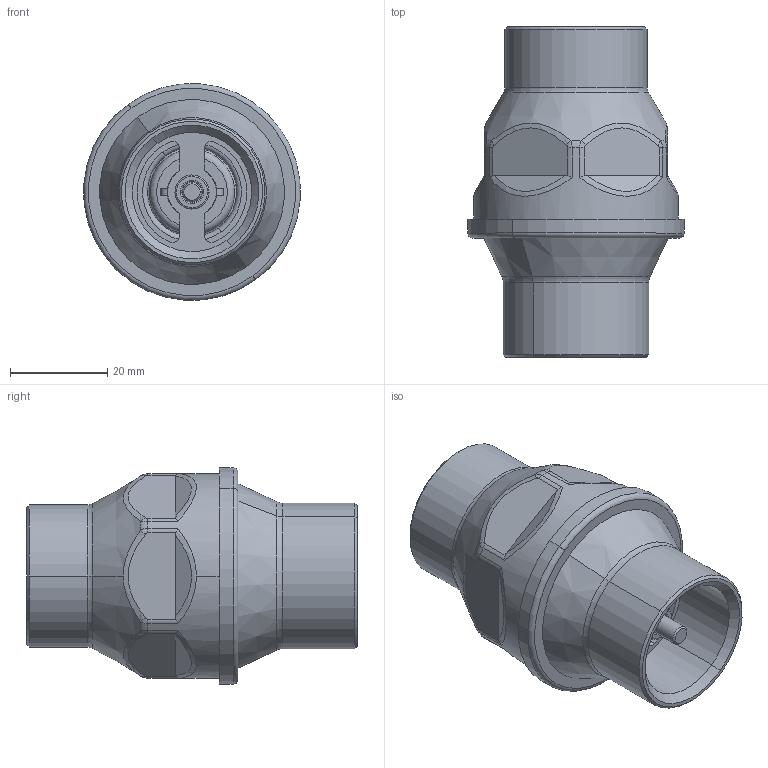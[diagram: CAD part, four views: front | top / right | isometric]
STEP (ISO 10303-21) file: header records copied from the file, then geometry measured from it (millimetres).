
FILE_DESCRIPTION (( 'STEP AP203' ), '1' );
FILE_NAME ('06N1706 G 3_4.STEP', '2021-02-18T12:36:17', ( '' ), ( '' ), 'SwSTEP 2.0', 'SolidWorks 2016', '' );
FILE_SCHEMA (( 'CONFIG_CONTROL_DESIGN' ));
Length unit declared in the file: millimetre
Products named in the file (14): 06N1709-01; 05M9502 X 3_4; 06N1706 G 3_4; 06D1811; 05D1810; 06I9610 X 3_4; 06N1707; 06I9603 X 3_4; 04D9904 X 3_4; 06I9604 X 3_4; 06N1708; 06N1703; 06F97003 X 3_4; 06I9607 X 3_4
Assembly tree (13 placements, depth 3):
  06N1706 G 3_4
    06I9604 X 3_4
    06I9607 X 3_4
    06I9610 X 3_4
    04D9904 X 3_4
    06I9603 X 3_4
    05M9502 X 3_4
    06F97003 X 3_4
    06N1707
      06N1708
      06N1703
    06D1811
      06N1709-01
      05D1810
Bounding box: 44.49 x 67.9 x 44.49 mm (x, y, z)
Volume: 23545.5 mm3; surface area: 27394.7 mm2
Topology: 12 solids, 12 shells, 396 faces, 964 edges, 605 vertices
Faces by surface type: cylinder 146, plane 102, torus 84, cone 38, bspline 26
Entity records: 18962 total; most frequent: CARTESIAN_POINT 8141, DIRECTION 2060, ORIENTED_EDGE 1928, EDGE_CURVE 964, AXIS2_PLACEMENT_3D 864, VERTEX_POINT 605, CIRCLE 476, EDGE_LOOP 435
